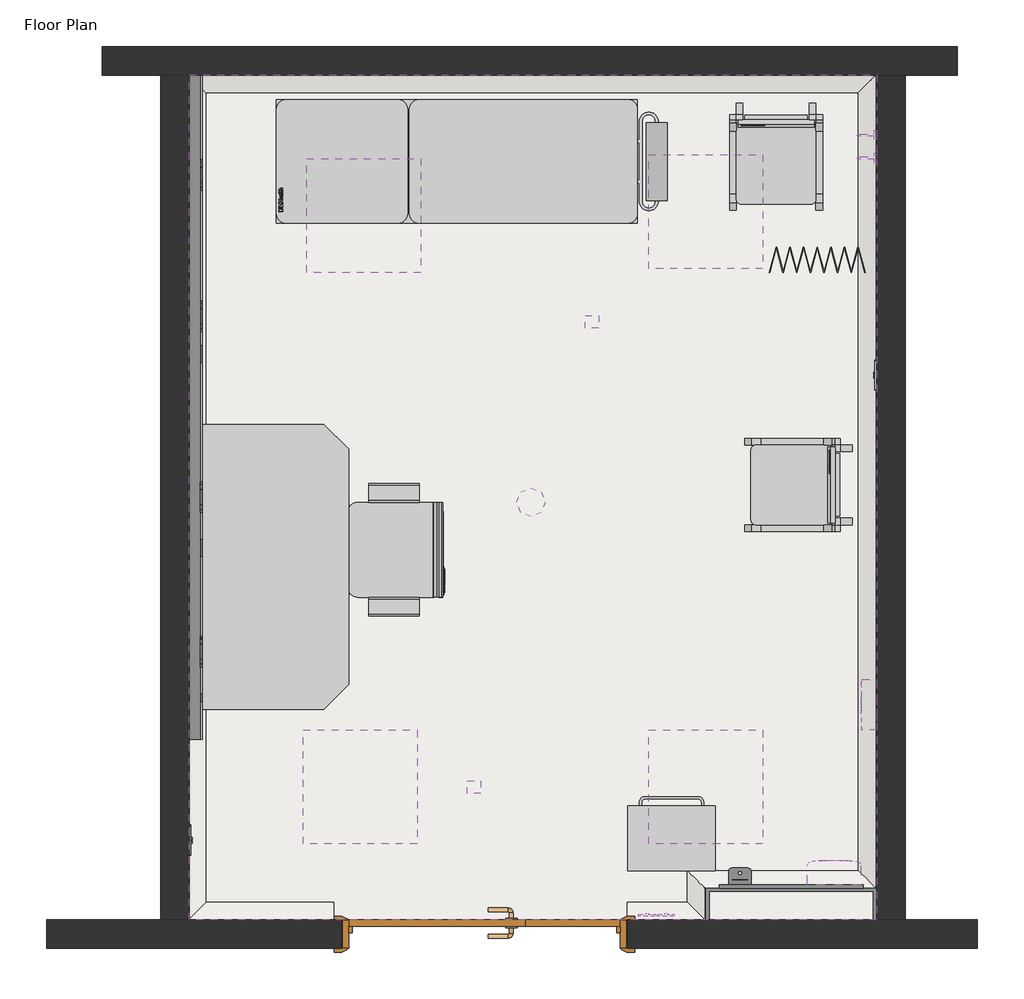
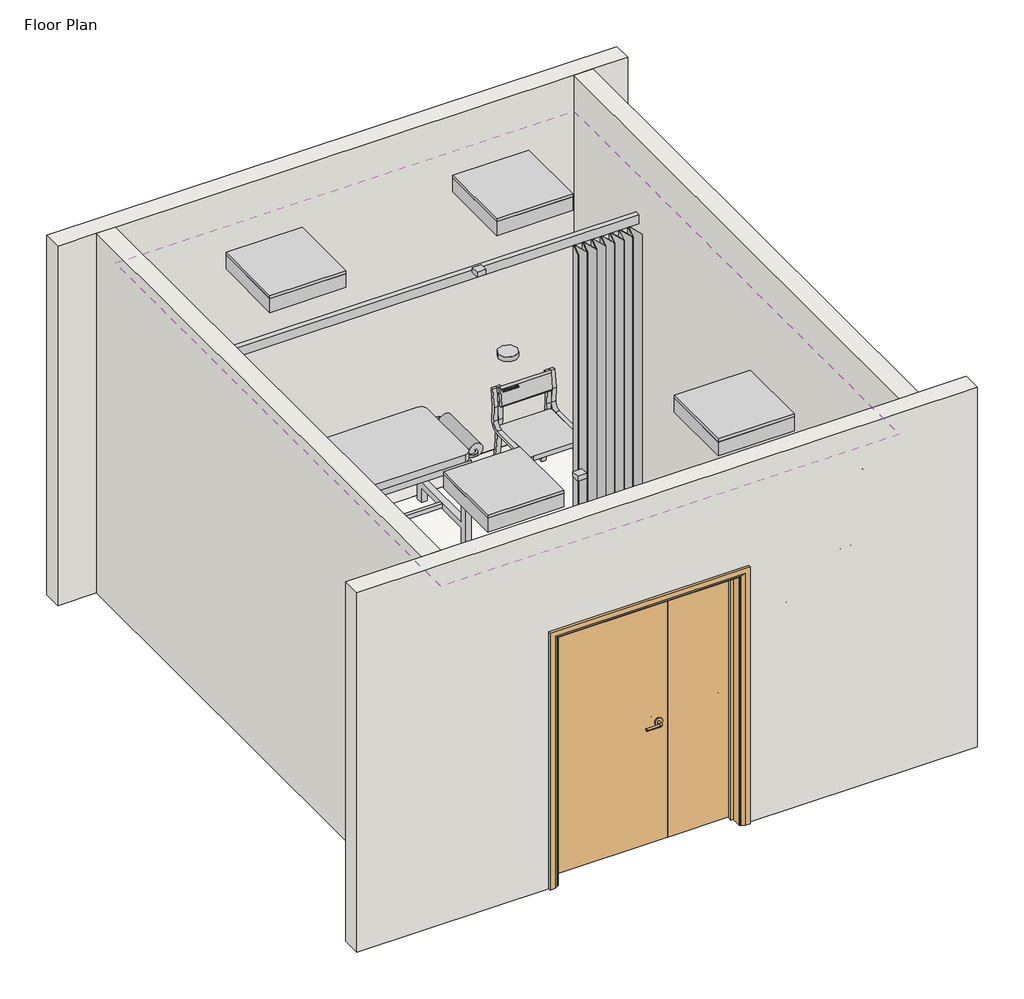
# One storey, incomplete: 13 proxies, 9 furniture elements, 6 flow terminals, 4 light fixtures, 4 walls, 2 slabs, 1 covering, 1 door.
"""IFC4 building model written with IfcOpenShell, lengths in millimetres."""

from ifc_helpers import new_model, si_unit, frame, origin, origin_with_axes, place, context, project, spatial, polyline, outline, extrude, faceted_brep, transform, mapped, element, save
from components import generic_models_4b609abf, electrical_fixtures_5073e38d, electrical_fixtures_c5f72a11, generic_models_43fc684f, generic_models_cdc84ac3, bimhealth_electrical_smoke_detector_v1_bimhealth_electrical_fe9fcb6c, bimhealth_extract_air_v1_bimhealth_extract_air_v1_c0e02c9f, support_metal_circular_standard_1419a276, doors_intays_1_1510x2110mm_sgl_swing_36e02ed7, flow_terminal_e4480bda, furniture_d395b82f, furniture_c6a9ce10, furniture_7312193e, furniture_31328e1a, furniture_9396af71, furniture_fd4004e2, furniture_26d36cfe, furniture_907434d5, furniture_166ce8d1, light_fixture_600x600mm_2_lamps_e1dca80e, bh_echo_room_skirting_bh_echo_room_skirting_22a46f71

model = new_model("IFC4")

# Units and contexts
model_context = context("Model", 3, world=origin())
ifc_project = project(units=[si_unit("LENGTHUNIT", "METRE", prefix="MILLI")], contexts=[model_context])

# Site, building, storey
site = spatial("IfcSite", under=ifc_project)
building = spatial("IfcBuilding", under=site)
storey = spatial("IfcBuildingStorey", under=building, Name="Floor Plan", Elevation=0.0)

# Proxies
placement = place(None, origin())
generic_models_shape = generic_models_4b609abf(model_context)
element("IfcBuildingElementProxy", 1, Name="BIMHealth-Light_Switch-LOD2A-v1 : BIMHealth-Light_Switch-LOD2A-v1", ObjectType="BIMHealth-Light_Switch-LOD2A-v1 : BIMHealth-Light_Switch-LOD2A-v1", at=placement, inside=storey, context=model_context, shape_type="MappedRepresentation", body=[
    mapped(generic_models_shape, transform((32317.6305359, 12685.2839979, 0.0), x_axis=(1.0, 0.0, 0.0), y_axis=(0.0, 1.0, 0.0), z_axis=(0.0, 0.0, 1.0))),
])
element("IfcBuildingElementProxy", 2, Name="BIMHealth-Light_Switch-LOD2A-v1 : BIMHealth-Light_Switch-LOD2A-v1", ObjectType="BIMHealth-Light_Switch-LOD2A-v1 : BIMHealth-Light_Switch-LOD2A-v1", at=placement, inside=storey, context=model_context, shape_type="MappedRepresentation", body=[
    mapped(generic_models_shape, transform((32417.6305359, 12685.2839979, 0.0), x_axis=(1.0, 0.0, 0.0), y_axis=(0.0, 1.0, 0.0), z_axis=(0.0, 0.0, 1.0))),
])
electrical_fixtures_shape = electrical_fixtures_5073e38d(model_context)
element("IfcBuildingElementProxy", 3, Name="BIMHealth-Cancel_Button-Non_Wall_Mounted-LOD2A-v1 : BIMHealth-Cancel_Button-Non_Wall_Mounted-LOD2A-v1", ObjectType="BIMHealth-Cancel_Button-Non_Wall_Mounted-LOD2A-v1 : BIMHealth-Cancel_Button-Non_Wall_Mounted-LOD2A-v1", at=placement, inside=storey, context=model_context, shape_type="MappedRepresentation", body=[
    mapped(electrical_fixtures_shape, transform((29967.6305359, 13815.284026, -150.0), x_axis=(0.0, 1.0000000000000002, 0.0), y_axis=(-1.0000000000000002, 0.0, 0.0), z_axis=(0.0, 0.0, 1.0))),
])
electrical_fixtures_2_shape = electrical_fixtures_c5f72a11(model_context)
element("IfcBuildingElementProxy", 4, Name="BIMHealth-Electrical_Data_Point-Non_Wall_Hosted-LOD2A-v1 : BIMHealth-Electrical_Data_Point-Non_Wall_Hosted-LOD2A-v1", ObjectType="BIMHealth-Electrical_Data_Point-Non_Wall_Hosted-LOD2A-v1 : BIMHealth-Electrical_Data_Point-Non_Wall_Hosted-LOD2A-v1", at=placement, inside=storey, context=model_context, shape_type="MappedRepresentation", body=[
    mapped(electrical_fixtures_2_shape, transform((29967.6305359, 14625.2839979, 400.0), x_axis=(0.0, -1.0000000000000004, 0.0), y_axis=(1.0000000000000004, 0.0, 0.0), z_axis=(0.0, 0.0, 1.0))),
])
element("IfcBuildingElementProxy", 5, Name="BIMHealth-Electrical_Data_Point-Non_Wall_Hosted-LOD2A-v1 : BIMHealth-Electrical_Data_Point-Non_Wall_Hosted-LOD2A-v1", ObjectType="BIMHealth-Electrical_Data_Point-Non_Wall_Hosted-LOD2A-v1 : BIMHealth-Electrical_Data_Point-Non_Wall_Hosted-LOD2A-v1", at=placement, inside=storey, context=model_context, shape_type="MappedRepresentation", body=[
    mapped(electrical_fixtures_2_shape, transform((29967.6305359, 15645.2839979, 400.0), x_axis=(0.0, -1.0000000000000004, 0.0), y_axis=(1.0000000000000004, 0.0, 0.0), z_axis=(0.0, 0.0, 1.0))),
])
generic_models_2_shape = generic_models_43fc684f(model_context)
element("IfcBuildingElementProxy", 6, Name="BIMHealth-Visitors_Chair-LOD2A-v1 : BIMHealth-Visitors_Chair-LOD2A-v1", ObjectType="BIMHealth-Visitors_Chair-LOD2A-v1 : BIMHealth-Visitors_Chair-LOD2A-v1", at=placement, inside=storey, context=model_context, shape_type="MappedRepresentation", body=[
    mapped(generic_models_2_shape, transform((32772.6305359, 16871.0016653, 0.0), x_axis=(1.0, 0.0, 0.0), y_axis=(0.0, 1.0, 0.0), z_axis=(0.0, 0.0, 1.0))),
])
element("IfcBuildingElementProxy", 7, Name="BIMHealth-Visitors_Chair-LOD2A-v1 : BIMHealth-Visitors_Chair-LOD2A-v1", ObjectType="BIMHealth-Visitors_Chair-LOD2A-v1 : BIMHealth-Visitors_Chair-LOD2A-v1", at=placement, inside=storey, context=model_context, shape_type="MappedRepresentation", body=[
    mapped(generic_models_2_shape, transform((33300.3993793, 15181.6956378, 0.0), x_axis=(0.0, -1.0000000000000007, 0.0), y_axis=(1.0000000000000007, 0.0, 0.0), z_axis=(0.0, 0.0, 1.0))),
])
generic_models_3_shape = generic_models_cdc84ac3(model_context)
element("IfcBuildingElementProxy", 8, Name="BIMHealth-Glove_Dispenser-LOD2A-v1.0005 : BIMHealth-Glove_Dispenser-LOD2A-v1.0005", ObjectType="BIMHealth-Glove_Dispenser-LOD2A-v1.0005 : BIMHealth-Glove_Dispenser-LOD2A-v1.0005", at=placement, inside=storey, context=model_context, shape_type="MappedRepresentation", body=[
    mapped(generic_models_3_shape, transform((33527.6305359, 13931.2839979, 250.0), x_axis=(0.0, -1.0000000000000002, 0.0), y_axis=(1.0000000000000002, 0.0, 0.0), z_axis=(0.0, 0.0, 1.0))),
])
bimhealth_electrical_smoke_detector_v1_bimhealth_electrical_shape = bimhealth_electrical_smoke_detector_v1_bimhealth_electrical_fe9fcb6c(model_context)
element("IfcBuildingElementProxy", 9, Name="BIMHealth-Electrical-Smoke_Detector-v1 : BIMHealth-Electrical-Smoke_Detector-v1", ObjectType="BIMHealth-Electrical-Smoke_Detector-v1 : BIMHealth-Electrical-Smoke_Detector-v1", at=placement, inside=storey, context=model_context, shape_type="MappedRepresentation", body=[
    mapped(bimhealth_electrical_smoke_detector_v1_bimhealth_electrical_shape, transform((31707.6305359, 14865.2839979, 261.6), x_axis=(1.0, 0.0, 0.0), y_axis=(0.0, 1.0, 0.0), z_axis=(0.0, 0.0, 1.0))),
])
bimhealth_extract_air_v1_bimhealth_extract_air_v1_shape = bimhealth_extract_air_v1_bimhealth_extract_air_v1_c0e02c9f(model_context)
element("IfcBuildingElementProxy", 10, Name="BIMHealth-Extract_Air-v1 : BIMHealth-Extract_Air-v1", ObjectType="BIMHealth-Extract_Air-v1 : BIMHealth-Extract_Air-v1", at=placement, inside=storey, context=model_context, shape_type="MappedRepresentation", body=[
    mapped(bimhealth_extract_air_v1_bimhealth_extract_air_v1_shape, transform((31407.6305359, 13365.2839979, 261.6), x_axis=(1.0, 0.0, 0.0), y_axis=(0.0, 1.0, 0.0), z_axis=(0.0, 0.0, 1.0))),
])
element("IfcBuildingElementProxy", 11, Name="BIMHealth-Supply_Air-v1 : BIMHealth-Supply_Air-v1", ObjectType="BIMHealth-Supply_Air-v1 : BIMHealth-Supply_Air-v1", at=placement, inside=storey, context=model_context, shape_type="MappedRepresentation", body=[
    mapped(bimhealth_extract_air_v1_bimhealth_extract_air_v1_shape, transform((32027.6305359, 15815.284026, 261.6), x_axis=(1.0, 0.0, 0.0), y_axis=(0.0, 1.0, 0.0), z_axis=(0.0, 0.0, 1.0))),
])
support_metal_circular_standard_shape = support_metal_circular_standard_1419a276(model_context)
element("IfcBuildingElementProxy", 12, Name="Support-Metal-Circular : Standard", ObjectType="Support-Metal-Circular : Standard", at=placement, inside=storey, context=model_context, shape_type="MappedRepresentation", body=[
    mapped(support_metal_circular_standard_shape, transform((33431.0109341, 16678.340803, 1500.0), x_axis=(0.0, -1.0000000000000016, 0.0), y_axis=(1.0000000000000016, 0.0, 0.0), z_axis=(0.0, 0.0, 1.0))),
])
element("IfcBuildingElementProxy", 13, Name="Support-Metal-Circular : Standard", ObjectType="Support-Metal-Circular : Standard", at=placement, inside=storey, context=model_context, shape_type="MappedRepresentation", body=[
    mapped(support_metal_circular_standard_shape, transform((33431.0109341, 16798.340803, 1500.0), x_axis=(0.0, -1.0000000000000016, 0.0), y_axis=(1.0000000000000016, 0.0, 0.0), z_axis=(0.0, 0.0, 1.0))),
])

# Covering
element("IfcCovering", 14, ObjectType="BIMHealth - Generic Ceiling", at=placement, inside=storey, context=model_context, shape_type="SweptSolid", body=[
    extrude(outline(polyline([(29907.6305359, 12665.2839979), (29907.6305359, 17115.284026), (33527.6305359, 17115.284026), (33527.6305359, 12665.2839979), (29907.6305359, 12665.2839979)]), holes=[polyline([(31127.6305359, 16675.284026), (30527.6305359, 16675.284026), (30527.6305359, 16075.284026), (31127.6305359, 16075.284026), (31127.6305359, 16675.284026)]), polyline([(32927.6305359, 16695.284026), (32327.6305359, 16695.284026), (32327.6305359, 16095.284026), (32927.6305359, 16095.284026), (32927.6305359, 16695.284026)]), polyline([(31107.6305359, 13665.2839979), (30507.6305359, 13665.2839979), (30507.6305359, 13065.2839979), (31107.6305359, 13065.2839979), (31107.6305359, 13665.2839979)]), polyline([(32927.6305359, 13665.2839979), (32327.6305359, 13665.2839979), (32327.6305359, 13065.2839979), (32927.6305359, 13065.2839979), (32927.6305359, 13665.2839979)])]), frame((0.0, 0.0, 2700.0), z_axis=(0.0, 0.0, 1.0), x_axis=(1.0, 0.0, 0.0)), (0.0, 0.0, 1.0), 52.0),
])

# Door
doors_intays_1_1510x2110mm_sgl_swing_shape = doors_intays_1_1510x2110mm_sgl_swing_36e02ed7(model_context)
element("IfcDoor", 15, ObjectType="Doors_IntAys_1 : 1510x2110mm-Sgl_Swing", at=placement, inside=storey, context=model_context, shape_type="MappedRepresentation", body=[
    mapped(doors_intays_1_1510x2110mm_sgl_swing_shape, transform((31851.6305359, 12590.2839979, 0.0), x_axis=(-1.0, 0.0, 0.0), y_axis=(0.0, -1.0, 0.0), z_axis=(0.0, 0.0, 1.0))),
])

# Flow terminals
flow_terminal_shape = flow_terminal_e4480bda(model_context)
element("IfcFlowTerminal", 16, ObjectType="BIMHealth-Electrical_Double_Socket-Non_Wall_Mounted_Realistic-LOD2A-v1 : BIMHealth-Electrical_Double_Socket-Non_Wall_Mounted_Realistic-LOD2A-v1", at=placement, inside=storey, context=model_context, shape_type="MappedRepresentation", body=[
    mapped(flow_terminal_shape, transform((29967.6305359, 14892.205278, 701.2574357), x_axis=(0.0, -1.0000000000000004, 0.0), y_axis=(1.0000000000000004, 0.0, 0.0), z_axis=(0.0, 0.0, 1.0))),
])
element("IfcFlowTerminal", 17, ObjectType="BIMHealth-Electrical_Double_Socket-Non_Wall_Mounted_Realistic-LOD2A-v1 : BIMHealth-Electrical_Double_Socket-Non_Wall_Mounted_Realistic-LOD2A-v1", at=placement, inside=storey, context=model_context, shape_type="MappedRepresentation", body=[
    mapped(flow_terminal_shape, transform((29967.6305359, 14079.3045741, 702.6790145), x_axis=(0.0, -1.0, 0.0), y_axis=(1.0, 0.0, 0.0), z_axis=(0.0, 0.0, 1.0))),
])
element("IfcFlowTerminal", 18, ObjectType="BIMHealth-Electrical_Double_Socket-Non_Wall_Mounted_Realistic-LOD2A-v1 : BIMHealth-Electrical_Double_Socket-Non_Wall_Mounted_Realistic-LOD2A-v1", at=placement, inside=storey, context=model_context, shape_type="MappedRepresentation", body=[
    mapped(flow_terminal_shape, transform((29967.6305359, 16590.034026, 701.2574357), x_axis=(0.0, -1.0000000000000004, 0.0), y_axis=(1.0000000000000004, 0.0, 0.0), z_axis=(0.0, 0.0, 1.0))),
])
element("IfcFlowTerminal", 19, ObjectType="BIMHealth-Electrical_Double_Socket-Non_Wall_Mounted_Realistic-LOD2A-v1 : BIMHealth-Electrical_Double_Socket-Non_Wall_Mounted_Realistic-LOD2A-v1", at=placement, inside=storey, context=model_context, shape_type="MappedRepresentation", body=[
    mapped(flow_terminal_shape, transform((29967.6305359, 15845.2839979, 701.2574357), x_axis=(0.0, -1.0000000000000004, 0.0), y_axis=(1.0000000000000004, 0.0, 0.0), z_axis=(0.0, 0.0, 1.0))),
])
element("IfcFlowTerminal", 20, ObjectType="BIMHealth-Electrical_Double_Socket-Non_Wall_Mounted_Realistic-LOD2A-v1 : BIMHealth-Electrical_Double_Socket-Non_Wall_Mounted_Realistic-LOD2A-v1", at=placement, inside=storey, context=model_context, shape_type="MappedRepresentation", body=[
    mapped(flow_terminal_shape, transform((33527.6305359, 15535.284026, 0.0), x_axis=(0.0, 1.0, 0.0), y_axis=(-1.0, 0.0, 0.0), z_axis=(0.0, 0.0, 1.0))),
])
element("IfcFlowTerminal", 21, ObjectType="BIMHealth-Electrical_Double_Socket-Non_Wall_Mounted_Realistic-LOD2A-v1 : BIMHealth-Electrical_Utility Double_Socket-Non_Wall_Mounted_Realistic-LOD2A-v1 2", at=placement, inside=storey, context=model_context, shape_type="MappedRepresentation", body=[
    mapped(flow_terminal_shape, transform((29907.6305359, 13085.2839979, 0.0), x_axis=(0.0, -1.0000000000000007, 0.0), y_axis=(1.0000000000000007, 0.0, 0.0), z_axis=(0.0, 0.0, 1.0))),
])

# Furniture
furniture_shape = furniture_d395b82f(model_context)
element("IfcFurniture", 22, ObjectType="BIMHealth-Chair_Operator-LOD2A-v1 : BIMHealth-Chair_Operator-LOD2A-v1", at=placement, inside=storey, context=model_context, shape_type="MappedRepresentation", body=[
    mapped(furniture_shape, transform((31244.8631741, 14865.2839979, 0.0), x_axis=(0.0, -1.0, 0.0), y_axis=(1.0, 0.0, 0.0), z_axis=(0.0, 0.0, 1.0))),
])
furniture_2_shape = furniture_c6a9ce10(model_context)
element("IfcFurniture", 23, ObjectType="BIMHealth-Bin_Clinical_Foot_Operated-LOD2A-v1 : BIMHealth-Bin_Clinical_Foot_Operated-LOD2A-v1", at=placement, inside=storey, context=model_context, shape_type="MappedRepresentation", body=[
    mapped(furniture_2_shape, transform((32667.6305359, 12935.2839979, 0.0), x_axis=(-1.0000000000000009, 0.0, 0.0), y_axis=(0.0, -1.0000000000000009, 0.0), z_axis=(0.0, 0.0, 1.0))),
])
furniture_3_shape = furniture_7312193e(model_context)
element("IfcFurniture", 24, ObjectType="BIMHealth-Couch_Examination_Paper_Towel-LOD2A-v1 : BIMHealth-Couch_Examination_Paper_Towel-LOD2A-v1", at=placement, inside=storey, context=model_context, shape_type="MappedRepresentation", body=[
    mapped(furniture_3_shape, transform((30367.6305359, 16335.284026, 0.0), x_axis=(0.0, 1.0000000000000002, 0.0), y_axis=(-1.0000000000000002, 0.0, 0.0), z_axis=(0.0, 0.0, 1.0))),
])
furniture_4_shape = furniture_31328e1a(model_context)
element("IfcFurniture", 25, ObjectType="BIMHealth-Worktop_Corner_Chamfered-LOD2A-v1 : BIMHealth-Worktop_Corner_Chamfered-LOD2A-v1", at=placement, inside=storey, context=model_context, shape_type="MappedRepresentation", body=[
    mapped(furniture_4_shape, transform((30723.5136611, 13775.284026, 0.0), x_axis=(0.0, 1.0000000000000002, 0.0), y_axis=(-1.0000000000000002, 0.0, 0.0), z_axis=(0.0, 0.0, 1.0))),
])
furniture_5_shape = furniture_9396af71(model_context)
element("IfcFurniture", 26, ObjectType="BIMHealth-Dado_Trunking_Recessed_Non-Wall-Hosted-LOD2A-v1 : BIMHealth-Dado_Trunking_Recessed_Non-Wall-Hosted-LOD2A-v1", at=placement, inside=storey, context=model_context, shape_type="MappedRepresentation", body=[
    mapped(furniture_5_shape, transform((29907.6305359, 15365.284026, -50.0), x_axis=(0.0, 1.0000000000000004, 0.0), y_axis=(-1.0000000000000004, 0.0, 0.0), z_axis=(0.0, 0.0, 1.0))),
])
furniture_6_shape = furniture_fd4004e2(model_context)
element("IfcFurniture", 27, ObjectType="BIMHealth-Curtain_Dialysis-LOD2A-v1 : BIMHealth-Curtain_Dialysis-LOD2A-v1", at=placement, inside=storey, context=model_context, shape_type="MappedRepresentation", body=[
    mapped(furniture_6_shape, transform((29995.7498622, 16195.284026, 0.0), x_axis=(1.0, 0.0, 0.0), y_axis=(0.0, 1.0, 0.0), z_axis=(0.0, 0.0, 1.0))),
])
furniture_7_shape = furniture_26d36cfe(model_context)
element("IfcFurniture", 28, ObjectType="BIMHealth-Soap_Dispenser-LOD2A-v1 : BIMHealth-Soap_Dispenser-LOD2A-v1", at=placement, inside=storey, context=model_context, shape_type="MappedRepresentation", body=[
    mapped(furniture_7_shape, transform((32867.6305359, 12851.2839979, 0.0), x_axis=(-1.0, 0.0, 0.0), y_axis=(0.0, -1.0, 0.0), z_axis=(0.0, 0.0, 1.0))),
])
furniture_8_shape = furniture_907434d5(model_context)
element("IfcFurniture", 29, ObjectType="BIMHealth-Washstation-LOD2A-v1 : BIMHealth-Washstation-LOD2A-v1", at=placement, inside=storey, context=model_context, shape_type="MappedRepresentation", body=[
    mapped(furniture_8_shape, transform((32627.6305359, 12665.2839979, 0.0), x_axis=(-1.0000000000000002, 0.0, 0.0), y_axis=(0.0, -1.0000000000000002, 0.0), z_axis=(0.0, 0.0, 1.0))),
])
furniture_9_shape = furniture_166ce8d1(model_context)
element("IfcFurniture", 30, ObjectType="BIMHealth-Paper_Towel_Dispenser-LOD2A-v1 : BIMHealth-Paper_Towel_Dispenser-LOD2A-v1", at=placement, inside=storey, context=model_context, shape_type="MappedRepresentation", body=[
    mapped(furniture_9_shape, transform((33442.6305359, 12851.2839979, 250.0), x_axis=(-1.0000000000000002, 0.0, 0.0), y_axis=(0.0, -1.0000000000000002, 0.0), z_axis=(0.0, 0.0, 1.0))),
])

# Light fixtures
light_fixture_600x600mm_2_lamps_shape = light_fixture_600x600mm_2_lamps_e1dca80e(model_context)
element("IfcLightFixture", 31, ObjectType="BIMHealth-Ceiling_Light-LOD2A-v1 : 600x600mm-2_Lamps", at=placement, inside=storey, context=model_context, shape_type="MappedRepresentation", body=[
    mapped(light_fixture_600x600mm_2_lamps_shape, transform((30851.1340375, 16429.9499581, 261.6), x_axis=(1.0, 0.0, 0.0), y_axis=(0.0, 1.0, 0.0), z_axis=(0.0, 0.0, 1.0))),
])
element("IfcLightFixture", 32, ObjectType="BIMHealth-Ceiling_Light-LOD2A-v1 : 600x600mm-2_Lamps", at=placement, inside=storey, context=model_context, shape_type="MappedRepresentation", body=[
    mapped(light_fixture_600x600mm_2_lamps_shape, transform((32651.1340375, 16449.9499581, 261.6), x_axis=(1.0, 0.0, 0.0), y_axis=(0.0, 1.0, 0.0), z_axis=(0.0, 0.0, 1.0))),
])
element("IfcLightFixture", 33, ObjectType="BIMHealth-Ceiling_Light-LOD2A-v1 : 600x600mm-2_Lamps", at=placement, inside=storey, context=model_context, shape_type="MappedRepresentation", body=[
    mapped(light_fixture_600x600mm_2_lamps_shape, transform((30831.1340375, 13419.94993, 261.6), x_axis=(1.0, 0.0, 0.0), y_axis=(0.0, 1.0, 0.0), z_axis=(0.0, 0.0, 1.0))),
])
element("IfcLightFixture", 34, ObjectType="BIMHealth-Ceiling_Light-LOD2A-v1 : 600x600mm-2_Lamps", at=placement, inside=storey, context=model_context, shape_type="MappedRepresentation", body=[
    mapped(light_fixture_600x600mm_2_lamps_shape, transform((32651.1340375, 13419.94993, 261.6), x_axis=(1.0, 0.0, 0.0), y_axis=(0.0, 1.0, 0.0), z_axis=(0.0, 0.0, 1.0))),
])

# Slabs
bh_echo_room_skirting_bh_echo_room_skirting_shape = bh_echo_room_skirting_bh_echo_room_skirting_22a46f71(model_context)
element("IfcSlab", 35, ObjectType="BH-Echo Room Skirting : BH-Echo Room Skirting", at=placement, inside=storey, context=model_context, shape_type="MappedRepresentation", body=[
    mapped(bh_echo_room_skirting_bh_echo_room_skirting_shape, transform((0.0, 0.0, 0.0), x_axis=(1.0, 0.0, 0.0), y_axis=(0.0, 1.0, 0.0), z_axis=(0.0, 0.0, 1.0))),
])
element("IfcSlab", 36, ObjectType="BIMHealth - Generic Floor", at=placement, inside=storey, context=model_context, shape_type="SweptSolid", body=[
    extrude(outline(polyline([(29907.6305359, 17115.284026), (33527.6305359, 17115.284026), (33527.6305359, 12665.2839979), (29907.6305359, 12665.2839979), (29907.6305359, 17115.284026)])), frame((0.0, 0.0, -2.0), z_axis=(0.0, 0.0, 1.0), x_axis=(1.0, 0.0, 0.0)), (0.0, 0.0, 1.0), 2.0),
])

# Walls
element("IfcWall", 37, ObjectType="BIMHealth - Generic Wall", at=placement, inside=storey, context=model_context, shape_type="Brep", body=[
    faceted_brep([(29450.8605284, 17115.284026, 0.0), (29757.6305359, 17115.284026, 0.0), (29907.6305359, 17115.284026, 0.0), (33527.6305359, 17115.284026, 0.0), (33677.6305359, 17115.284026, 0.0), (33950.8605284, 17115.284026, 0.0), (33950.8605284, 17115.284026, 3000.0), (33677.6305359, 17115.284026, 3000.0), (33527.6305359, 17115.284026, 3000.0), (29907.6305359, 17115.284026, 3000.0), (29757.6305359, 17115.284026, 3000.0), (29450.8605284, 17115.284026, 3000.0), (29450.8605284, 17265.284026, 0.0), (29450.8605284, 17265.284026, 3000.0), (33950.8605284, 17265.284026, 3000.0), (33950.8605284, 17265.284026, 0.0)], [[[0, 1, 2, 3, 4, 5, 6, 7, 8, 9, 10, 11]], [[12, 13, 14, 15]], [[5, 4, 3, 2, 1, 0, 12, 15]], [[6, 5, 15, 14]], [[11, 10, 9, 8, 7, 6, 14, 13]], [[0, 11, 13, 12]]]),
])
element("IfcWall", 38, ObjectType="BIMHealth - Generic Wall", at=placement, inside=storey, context=model_context, shape_type="SweptSolid", body=[
    extrude(outline(polyline([(29757.6305359, 12665.2839979), (29757.6305359, 17115.284026), (29907.6305359, 17115.284026), (29907.6305359, 12665.2839979), (29757.6305359, 12665.2839979)])), origin_with_axes(), (0.0, 0.0, 1.0), 3000.0),
])
element("IfcWall", 39, ObjectType="BIMHealth - Generic Wall", at=placement, inside=storey, context=model_context, shape_type="SweptSolid", body=[
    extrude(outline(polyline([(33677.6305359, 17115.284026), (33677.6305359, 12665.2839979), (33527.6305359, 12665.2839979), (33527.6305359, 17115.284026), (33677.6305359, 17115.284026)])), origin_with_axes(), (0.0, 0.0, 1.0), 3000.0),
])
element("IfcWall", 40, ObjectType="BIMHealth - Generic Wall", at=placement, inside=storey, context=model_context, shape_type="Brep", body=[
    faceted_brep([(34057.6305359, 12515.2839979, 0.0), (34057.6305359, 12515.2839979, 3000.0), (29157.6305359, 12515.2839979, 3000.0), (29157.6305359, 12515.2839979, 0.0), (30707.6305359, 12515.2839979, 0.0), (30707.6305359, 12515.2839979, 2110.0), (32217.6305359, 12515.2839979, 2110.0), (32217.6305359, 12515.2839979, 0.0), (34057.6305359, 12665.2839979, 3000.0), (34057.6305359, 12665.2839979, 0.0), (33677.6305359, 12665.2839979, 0.0), (33527.6305359, 12665.2839979, 0.0), (32217.6305359, 12665.2839979, 0.0), (32217.6305359, 12665.2839979, 2110.0), (30707.6305359, 12665.2839979, 2110.0), (30707.6305359, 12665.2839979, 0.0), (29907.6305359, 12665.2839979, 0.0), (29757.6305359, 12665.2839979, 0.0), (29157.6305359, 12665.2839979, 0.0), (29157.6305359, 12665.2839979, 3000.0), (29757.6305359, 12665.2839979, 3000.0), (29907.6305359, 12665.2839979, 3000.0), (33527.6305359, 12665.2839979, 3000.0), (33677.6305359, 12665.2839979, 3000.0)], [[[0, 1, 2, 3, 4, 5, 6, 7]], [[8, 9, 10, 11, 12, 13, 14, 15, 16, 17, 18, 19, 20, 21, 22, 23]], [[9, 0, 7, 12, 11, 10]], [[3, 18, 17, 16, 15, 4]], [[1, 0, 9, 8]], [[2, 1, 8, 23, 22, 21, 20, 19]], [[3, 2, 19, 18]], [[14, 5, 4, 15]], [[5, 14, 13, 6]], [[6, 13, 12, 7]]]),
])

save(model, "model.ifc")
